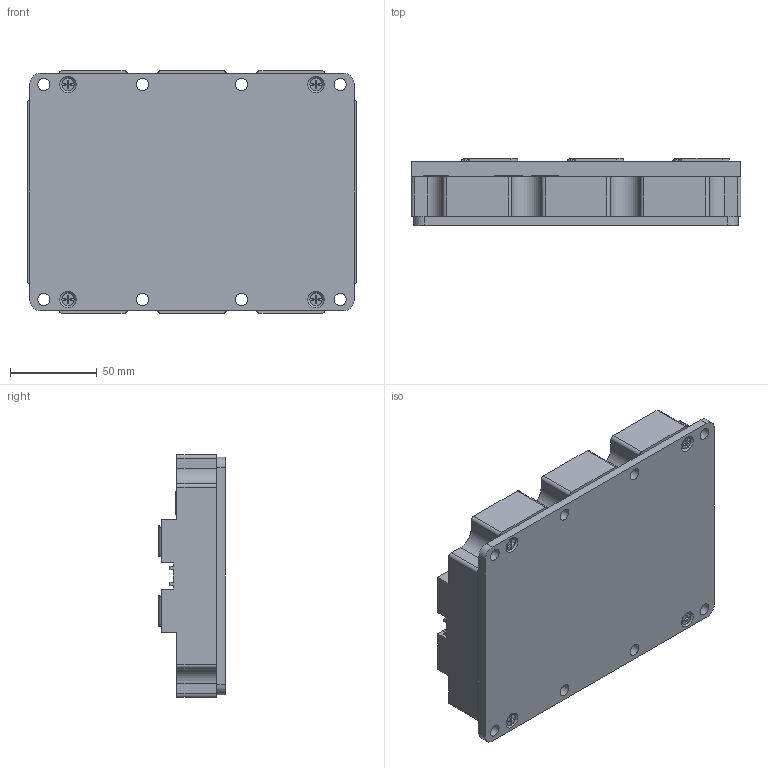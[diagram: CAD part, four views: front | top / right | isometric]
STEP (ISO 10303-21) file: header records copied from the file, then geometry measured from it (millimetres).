
FILE_DESCRIPTION (( 'STEP AP214' ), '1' );
FILE_NAME ('LD-ES-170634-MBN1200E33E.STEP', '2017-09-04T06:39:46', ( 'Flora110' ), ( '' ), 'SwSTEP 2.0', 'SolidWorks 2010', '' );
FILE_SCHEMA (( 'AUTOMOTIVE_DESIGN' ));
Length unit declared in the file: millimetre
Products named in the file (1): LD-ES-170634-MBN1200E33E
Bounding box: 190 x 38.5 x 140 mm (x, y, z)
Volume: 775565.9 mm3; surface area: 93352.8 mm2
Topology: 1 solids, 15 shells, 810 faces, 2154 edges, 1422 vertices
Faces by surface type: plane 464, bspline 210, cylinder 136
Full cylindrical faces by diameter (mm): 3.5 x4, 4 x3, 4.5 x4, 5 x4, 7 x12, 8 x6, 9 x6, 18.1 x6, 18.5 x6
Entity records: 30031 total; most frequent: CARTESIAN_POINT 11363, ORIENTED_EDGE 4076, DIRECTION 3288, EDGE_CURVE 2038, VERTEX_POINT 1388, VECTOR 1246, LINE 1246, AXIS2_PLACEMENT_3D 1021
